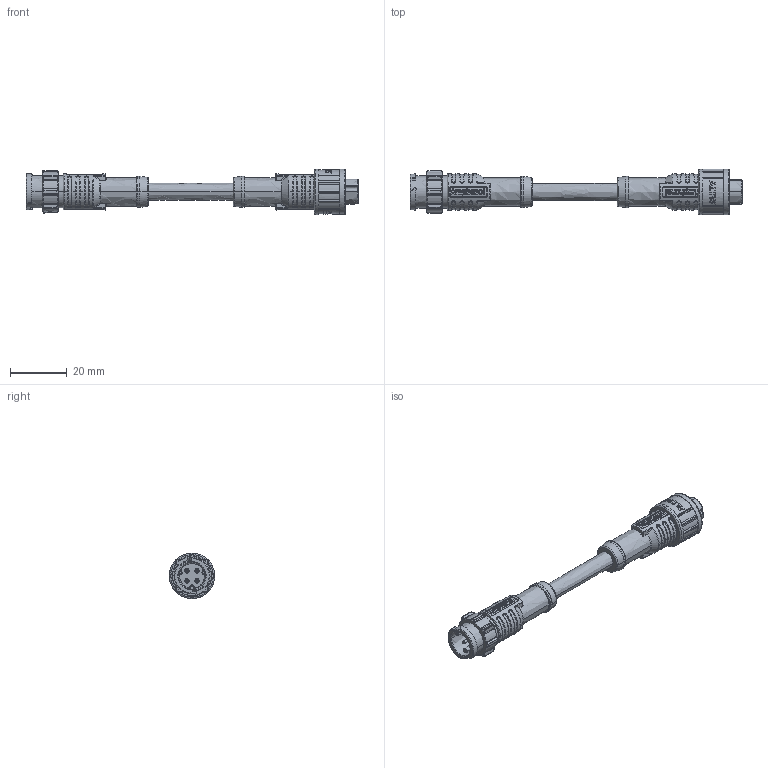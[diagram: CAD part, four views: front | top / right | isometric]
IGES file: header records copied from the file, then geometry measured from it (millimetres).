
Start section:  PTC IGES file: AB-AD04ML-ADFL-QDXXX-IGS.igs
Global section: file name: AB-AD04ML-ADFL-QDXXX-IGS.igs; native system: Creo Parametric by Parametric Technology Corporation; preprocessor: 2017170; author: L050004; organization: Unknown; date: 20211021.133607; units: millimetre
Bounding box: 116.95 x 16 x 16.1 mm (x, y, z)
Volume: 9723.6 mm3; surface area: 6303.4 mm2
Topology: 1 solids, 1 shells, 1510 faces, 4092 edges, 2620 vertices
Faces by surface type: bspline 1510
